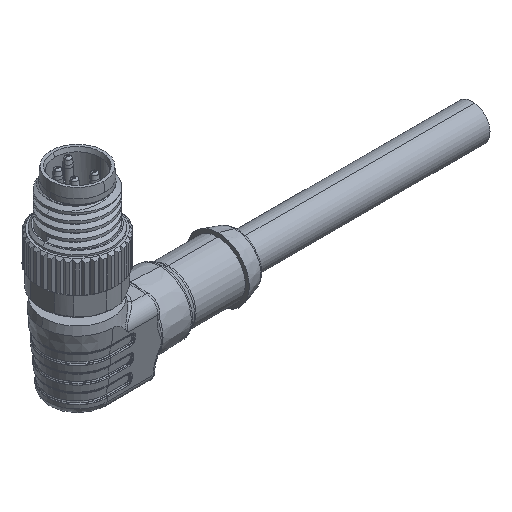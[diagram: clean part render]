
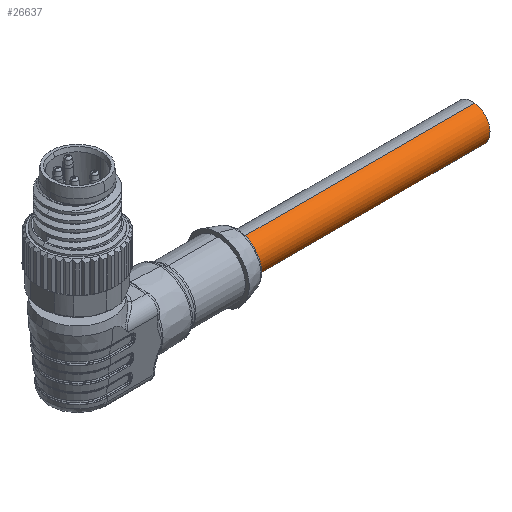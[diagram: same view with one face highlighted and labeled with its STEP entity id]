
A CAD part, isometric view. The second image highlights one B-rep face of the part: STEP entity #26637.
In plain terms, the highlighted cylindrical face has radius 2.25 mm (diameter 4.5 mm), a partial arc.
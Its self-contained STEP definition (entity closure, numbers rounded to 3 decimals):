
#47 = DIRECTION ( 'NONE',  ( -1., 0., 0. ) ) ;
#1019 = EDGE_LOOP ( 'NONE', ( #17627, #5889, #23442, #15263 ) ) ;
#1310 = VERTEX_POINT ( 'NONE', #20309 ) ;
#3243 = EDGE_CURVE ( 'NONE', #1310, #13579, #31045, .T. ) ;
#5248 = DIRECTION ( 'NONE',  ( 0., 0., -1. ) ) ;
#5691 = CARTESIAN_POINT ( 'NONE',  ( 44.65, 0.58, 2.521 ) ) ;
#5792 = CARTESIAN_POINT ( 'NONE',  ( 94.65, -0.04, 6.979 ) ) ;
#5889 = ORIENTED_EDGE ( 'NONE', *, *, #3243, .T. ) ;
#6719 = VECTOR ( 'NONE', #47, 1000. ) ;
#7782 = VERTEX_POINT ( 'NONE', #28512 ) ;
#10371 = CARTESIAN_POINT ( 'NONE',  ( 94.65, 0.27, 4.75 ) ) ;
#10506 = CARTESIAN_POINT ( 'NONE',  ( 44.65, 0.27, 4.75 ) ) ;
#10513 = CIRCLE ( 'NONE', #33034, 2.25 ) ;
#11282 = DIRECTION ( 'NONE',  ( -1., 0., 0. ) ) ;
#12539 = FACE_OUTER_BOUND ( 'NONE', #1019, .T. ) ;
#13164 = EDGE_CURVE ( 'NONE', #7782, #14830, #10513, .T. ) ;
#13579 = VERTEX_POINT ( 'NONE', #19445 ) ;
#14720 = CARTESIAN_POINT ( 'NONE',  ( 74.65, 0.27, 4.75 ) ) ;
#14830 = VERTEX_POINT ( 'NONE', #5691 ) ;
#15263 = ORIENTED_EDGE ( 'NONE', *, *, #13164, .T. ) ;
#16706 = LINE ( 'NONE', #27746, #19748 ) ;
#16921 = DIRECTION ( 'NONE',  ( -1., 0., 0. ) ) ;
#17627 = ORIENTED_EDGE ( 'NONE', *, *, #31210, .F. ) ;
#19445 = CARTESIAN_POINT ( 'NONE',  ( 74.65, -0.04, 6.979 ) ) ;
#19748 = VECTOR ( 'NONE', #11282, 1000. ) ;
#20309 = CARTESIAN_POINT ( 'NONE',  ( 74.65, 0.58, 2.521 ) ) ;
#21246 = DIRECTION ( 'NONE',  ( -1., 0., 0. ) ) ;
#21495 = EDGE_CURVE ( 'NONE', #13579, #7782, #22105, .T. ) ;
#21559 = DIRECTION ( 'NONE',  ( 1., 0., 0. ) ) ;
#21605 = CYLINDRICAL_SURFACE ( 'NONE', #28929, 2.25 ) ;
#22105 = LINE ( 'NONE', #5792, #6719 ) ;
#23442 = ORIENTED_EDGE ( 'NONE', *, *, #21495, .T. ) ;
#25768 = DIRECTION ( 'NONE',  ( 0., -0.138, 0.99 ) ) ;
#26479 = DIRECTION ( 'NONE',  ( 0., -0.138, 0.99 ) ) ;
#26637 = ADVANCED_FACE ( 'NONE', ( #12539 ), #21605, .T. ) ;
#27746 = CARTESIAN_POINT ( 'NONE',  ( 94.65, 0.58, 2.521 ) ) ;
#28512 = CARTESIAN_POINT ( 'NONE',  ( 44.65, -0.04, 6.979 ) ) ;
#28929 = AXIS2_PLACEMENT_3D ( 'NONE', #10371, #21246, #26479 ) ;
#31045 = CIRCLE ( 'NONE', #35659, 2.25 ) ;
#31210 = EDGE_CURVE ( 'NONE', #1310, #14830, #16706, .T. ) ;
#33034 = AXIS2_PLACEMENT_3D ( 'NONE', #10506, #21559, #5248 ) ;
#35659 = AXIS2_PLACEMENT_3D ( 'NONE', #14720, #16921, #25768 ) ;
